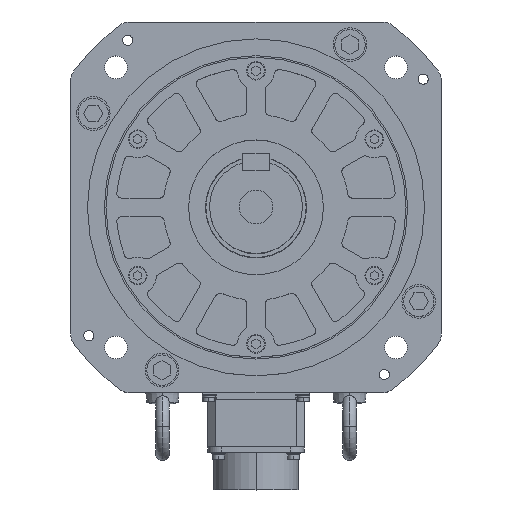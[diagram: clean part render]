
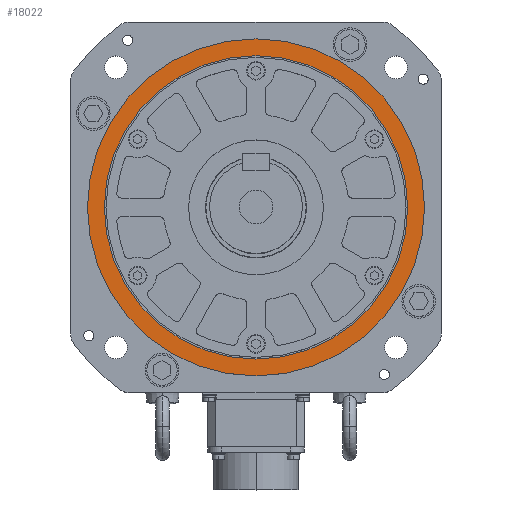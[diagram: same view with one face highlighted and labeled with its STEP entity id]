
A CAD part, top view. The second image highlights one B-rep face of the part: STEP entity #18022.
In plain terms, the highlighted planar face has unit normal (0, 0, 1).
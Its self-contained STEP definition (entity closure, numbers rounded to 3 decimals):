
#4621 = EDGE_CURVE ( 'NONE', #4622, #4623, #30003, .T. ) ;
#4622 = VERTEX_POINT ( 'NONE', #29999 ) ;
#4623 = VERTEX_POINT ( 'NONE', #29997 ) ;
#11648 = VERTEX_POINT ( 'NONE', #31350 ) ;
#12809 = VERTEX_POINT ( 'NONE', #31515 ) ;
#13321 = EDGE_CURVE ( 'NONE', #11648, #12809, #31576, .T. ) ;
#18022 = ADVANCED_FACE ( 'NONE', ( #33417, #33416 ), #33414, .T. ) ;
#18025 = EDGE_LOOP ( 'NONE', ( #18027, #18031 ) ) ;
#18027 = ORIENTED_EDGE ( 'NONE', *, *, #18029, .T. ) ;
#18029 = EDGE_CURVE ( 'NONE', #4623, #4622, #33408, .T. ) ;
#18031 = ORIENTED_EDGE ( 'NONE', *, *, #4621, .T. ) ;
#18032 = EDGE_LOOP ( 'NONE', ( #18033, #18036 ) ) ;
#18033 = ORIENTED_EDGE ( 'NONE', *, *, #18034, .F. ) ;
#18034 = EDGE_CURVE ( 'NONE', #12809, #11648, #33399, .T. ) ;
#18036 = ORIENTED_EDGE ( 'NONE', *, *, #13321, .F. ) ;
#29997 = CARTESIAN_POINT ( 'NONE',  ( -100., 0., 4. ) ) ;
#29999 = CARTESIAN_POINT ( 'NONE',  ( 100., 0., 4. ) ) ;
#30000 = DIRECTION ( 'NONE',  ( 1., 0., 0. ) ) ;
#30001 = DIRECTION ( 'NONE',  ( 0., 0., 1. ) ) ;
#30002 = AXIS2_PLACEMENT_3D ( 'NONE', #30009, #30001, #30000 ) ;
#30003 = CIRCLE ( 'NONE', #30002, 100. ) ;
#30009 = CARTESIAN_POINT ( 'NONE',  ( 0., 0., 4. ) ) ;
#31350 = CARTESIAN_POINT ( 'NONE',  ( -90., 0., 4. ) ) ;
#31515 = CARTESIAN_POINT ( 'NONE',  ( 90., 0., 4. ) ) ;
#31576 = CIRCLE ( 'NONE', #31641, 90. ) ;
#31638 = DIRECTION ( 'NONE',  ( 1., 0., 0. ) ) ;
#31639 = DIRECTION ( 'NONE',  ( 0., 0., 1. ) ) ;
#31640 = CARTESIAN_POINT ( 'NONE',  ( 0., 0., 4. ) ) ;
#31641 = AXIS2_PLACEMENT_3D ( 'NONE', #31640, #31639, #31638 ) ;
#33394 = DIRECTION ( 'NONE',  ( 1., 0., 0. ) ) ;
#33396 = DIRECTION ( 'NONE',  ( 0., 0., 1. ) ) ;
#33397 = CARTESIAN_POINT ( 'NONE',  ( 0., 0., 4. ) ) ;
#33398 = AXIS2_PLACEMENT_3D ( 'NONE', #33397, #33396, #33394 ) ;
#33399 = CIRCLE ( 'NONE', #33398, 90. ) ;
#33403 = DIRECTION ( 'NONE',  ( 1., 0., 0. ) ) ;
#33404 = DIRECTION ( 'NONE',  ( 0., 0., 1. ) ) ;
#33406 = CARTESIAN_POINT ( 'NONE',  ( 0., 0., 4. ) ) ;
#33407 = AXIS2_PLACEMENT_3D ( 'NONE', #33406, #33404, #33403 ) ;
#33408 = CIRCLE ( 'NONE', #33407, 100. ) ;
#33410 = DIRECTION ( 'NONE',  ( 1., 0., 0. ) ) ;
#33411 = DIRECTION ( 'NONE',  ( 0., 0., 1. ) ) ;
#33412 = CARTESIAN_POINT ( 'NONE',  ( 0., 0., 4. ) ) ;
#33413 = AXIS2_PLACEMENT_3D ( 'NONE', #33412, #33411, #33410 ) ;
#33414 = PLANE ( 'NONE',  #33413 ) ;
#33416 = FACE_BOUND ( 'NONE', #18032, .T. ) ;
#33417 = FACE_OUTER_BOUND ( 'NONE', #18025, .T. ) ;
